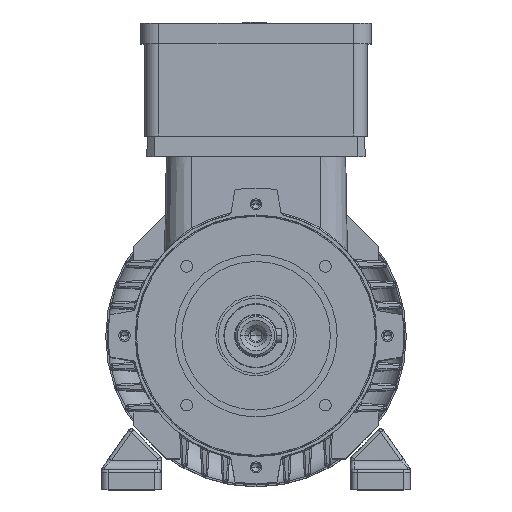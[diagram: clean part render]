
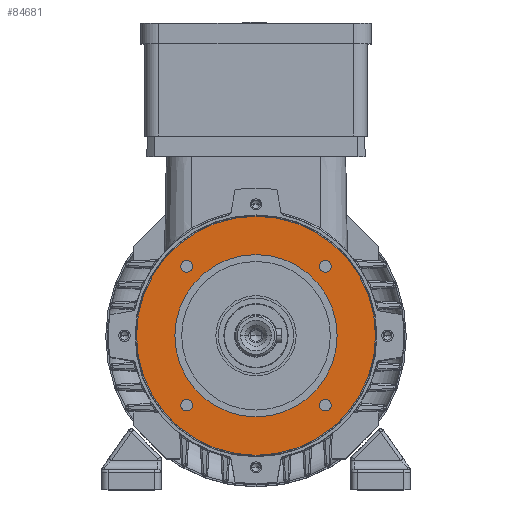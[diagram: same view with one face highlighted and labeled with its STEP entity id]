
A CAD part, top view. The second image highlights one B-rep face of the part: STEP entity #84681.
In plain terms, the highlighted planar face has unit normal (0, 0, 1).
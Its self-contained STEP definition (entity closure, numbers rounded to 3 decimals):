
#179 = CARTESIAN_POINT ( 'NONE',  ( 40.659, 40.659, 136.5 ) ) ;
#1349 = EDGE_CURVE ( 'NONE', #151225, #44682, #117210, .T. ) ;
#2076 = CARTESIAN_POINT ( 'NONE',  ( -40.659, -44.059, 136.5 ) ) ;
#2741 = CARTESIAN_POINT ( 'NONE',  ( -40.659, -37.259, 136.5 ) ) ;
#3137 = DIRECTION ( 'NONE',  ( 0., 0., -1. ) ) ;
#4863 = CARTESIAN_POINT ( 'NONE',  ( 0., 0., 136.5 ) ) ;
#8811 = EDGE_CURVE ( 'NONE', #55457, #29690, #137363, .T. ) ;
#9450 = ORIENTED_EDGE ( 'NONE', *, *, #47139, .F. ) ;
#11143 = ORIENTED_EDGE ( 'NONE', *, *, #64247, .F. ) ;
#12012 = DIRECTION ( 'NONE',  ( 1., 0., 0. ) ) ;
#19642 = CARTESIAN_POINT ( 'NONE',  ( 40.659, -37.259, 136.5 ) ) ;
#19977 = AXIS2_PLACEMENT_3D ( 'NONE', #92950, #140427, #21395 ) ;
#20085 = CARTESIAN_POINT ( 'NONE',  ( -40.659, 40.659, 136.5 ) ) ;
#20704 = CARTESIAN_POINT ( 'NONE',  ( -70., 0., 136.5 ) ) ;
#20721 = VERTEX_POINT ( 'NONE', #92875 ) ;
#21395 = DIRECTION ( 'NONE',  ( 0., 1., 0. ) ) ;
#23977 = CARTESIAN_POINT ( 'NONE',  ( 0., 70., 136.5 ) ) ;
#26121 = DIRECTION ( 'NONE',  ( 0., 1., 0. ) ) ;
#27962 = ORIENTED_EDGE ( 'NONE', *, *, #151804, .F. ) ;
#29690 = VERTEX_POINT ( 'NONE', #78491 ) ;
#31734 = AXIS2_PLACEMENT_3D ( 'NONE', #40163, #3137, #50434 ) ;
#32404 = AXIS2_PLACEMENT_3D ( 'NONE', #23977, #152768, #106320 ) ;
#33918 = EDGE_CURVE ( 'NONE', #142369, #128902, #96441, .T. ) ;
#35520 = DIRECTION ( 'NONE',  ( -1., 0., 0. ) ) ;
#36485 = CARTESIAN_POINT ( 'NONE',  ( -47.5, 0., 136.5 ) ) ;
#36967 = FACE_BOUND ( 'NONE', #77561, .T. ) ;
#39351 = EDGE_LOOP ( 'NONE', ( #79322, #52138 ) ) ;
#40163 = CARTESIAN_POINT ( 'NONE',  ( 0., 0., 136.5 ) ) ;
#43064 = ORIENTED_EDGE ( 'NONE', *, *, #138489, .F. ) ;
#43798 = DIRECTION ( 'NONE',  ( 0., 0., 1. ) ) ;
#44682 = VERTEX_POINT ( 'NONE', #56099 ) ;
#46935 = VERTEX_POINT ( 'NONE', #109754 ) ;
#47139 = EDGE_CURVE ( 'NONE', #44682, #151225, #149990, .T. ) ;
#47918 = CIRCLE ( 'NONE', #110751, 3.4 ) ;
#49312 = DIRECTION ( 'NONE',  ( 0., 0., 1. ) ) ;
#50434 = DIRECTION ( 'NONE',  ( -1., 0., 0. ) ) ;
#52138 = ORIENTED_EDGE ( 'NONE', *, *, #152041, .T. ) ;
#52148 = DIRECTION ( 'NONE',  ( 0., 0., -1. ) ) ;
#53653 = FACE_BOUND ( 'NONE', #140684, .T. ) ;
#54788 = CARTESIAN_POINT ( 'NONE',  ( 40.659, -44.059, 136.5 ) ) ;
#55457 = VERTEX_POINT ( 'NONE', #20704 ) ;
#55669 = DIRECTION ( 'NONE',  ( 0., 1., 0. ) ) ;
#55919 = CARTESIAN_POINT ( 'NONE',  ( 40.659, -40.659, 136.5 ) ) ;
#56099 = CARTESIAN_POINT ( 'NONE',  ( -40.659, 37.259, 136.5 ) ) ;
#58535 = AXIS2_PLACEMENT_3D ( 'NONE', #107935, #49312, #26121 ) ;
#59213 = DIRECTION ( 'NONE',  ( 0., 0., -1. ) ) ;
#62411 = EDGE_CURVE ( 'NONE', #29690, #55457, #89220, .T. ) ;
#62865 = CIRCLE ( 'NONE', #93419, 3.4 ) ;
#63037 = AXIS2_PLACEMENT_3D ( 'NONE', #126681, #68072, #68569 ) ;
#64247 = EDGE_CURVE ( 'NONE', #46935, #20721, #47918, .T. ) ;
#64646 = CIRCLE ( 'NONE', #112115, 47.5 ) ;
#65287 = ORIENTED_EDGE ( 'NONE', *, *, #130521, .F. ) ;
#67900 = DIRECTION ( 'NONE',  ( 0., 0., 1. ) ) ;
#68072 = DIRECTION ( 'NONE',  ( 0., 0., 1. ) ) ;
#68569 = DIRECTION ( 'NONE',  ( 1., 0., 0. ) ) ;
#70040 = AXIS2_PLACEMENT_3D ( 'NONE', #102623, #101601, #91753 ) ;
#73484 = VERTEX_POINT ( 'NONE', #19642 ) ;
#73499 = EDGE_LOOP ( 'NONE', ( #79110, #9450 ) ) ;
#75860 = DIRECTION ( 'NONE',  ( -1., 0., 0. ) ) ;
#75941 = CIRCLE ( 'NONE', #90685, 3.4 ) ;
#77548 = ORIENTED_EDGE ( 'NONE', *, *, #8811, .F. ) ;
#77561 = EDGE_LOOP ( 'NONE', ( #11143, #43064 ) ) ;
#78491 = CARTESIAN_POINT ( 'NONE',  ( 70., 0., 136.5 ) ) ;
#79110 = ORIENTED_EDGE ( 'NONE', *, *, #1349, .F. ) ;
#79322 = ORIENTED_EDGE ( 'NONE', *, *, #33918, .T. ) ;
#81762 = VERTEX_POINT ( 'NONE', #2076 ) ;
#82522 = DIRECTION ( 'NONE',  ( 0., 0., 1. ) ) ;
#84681 = ADVANCED_FACE ( 'NONE', ( #36967, #91373, #116249, #114066, #116306, #53653 ), #95560, .F. ) ;
#85435 = EDGE_LOOP ( 'NONE', ( #93376, #65287 ) ) ;
#87816 = ORIENTED_EDGE ( 'NONE', *, *, #112893, .F. ) ;
#89220 = CIRCLE ( 'NONE', #111640, 70. ) ;
#89295 = EDGE_CURVE ( 'NONE', #105330, #81762, #152813, .T. ) ;
#90344 = AXIS2_PLACEMENT_3D ( 'NONE', #20085, #43798, #55669 ) ;
#90685 = AXIS2_PLACEMENT_3D ( 'NONE', #55919, #138355, #91402 ) ;
#91373 = FACE_OUTER_BOUND ( 'NONE', #101134, .T. ) ;
#91402 = DIRECTION ( 'NONE',  ( 0., 1., 0. ) ) ;
#91753 = DIRECTION ( 'NONE',  ( -1., 0., 0. ) ) ;
#92875 = CARTESIAN_POINT ( 'NONE',  ( 37.259, 40.659, 136.5 ) ) ;
#92950 = CARTESIAN_POINT ( 'NONE',  ( -40.659, 40.659, 136.5 ) ) ;
#93376 = ORIENTED_EDGE ( 'NONE', *, *, #89295, .F. ) ;
#93419 = AXIS2_PLACEMENT_3D ( 'NONE', #146413, #108701, #121590 ) ;
#93553 = CIRCLE ( 'NONE', #58535, 3.4 ) ;
#94910 = CARTESIAN_POINT ( 'NONE',  ( 47.5, 0., 136.5 ) ) ;
#95560 = PLANE ( 'NONE',  #32404 ) ;
#96441 = CIRCLE ( 'NONE', #70040, 47.5 ) ;
#101134 = EDGE_LOOP ( 'NONE', ( #77548, #152749 ) ) ;
#101601 = DIRECTION ( 'NONE',  ( 0., 0., -1. ) ) ;
#102623 = CARTESIAN_POINT ( 'NONE',  ( 0., 0., 136.5 ) ) ;
#105330 = VERTEX_POINT ( 'NONE', #2741 ) ;
#106320 = DIRECTION ( 'NONE',  ( -1., 0., 0. ) ) ;
#107935 = CARTESIAN_POINT ( 'NONE',  ( -40.659, -40.659, 136.5 ) ) ;
#108701 = DIRECTION ( 'NONE',  ( 0., 0., 1. ) ) ;
#109174 = AXIS2_PLACEMENT_3D ( 'NONE', #138466, #67900, #115241 ) ;
#109754 = CARTESIAN_POINT ( 'NONE',  ( 44.059, 40.659, 136.5 ) ) ;
#110751 = AXIS2_PLACEMENT_3D ( 'NONE', #179, #82522, #12012 ) ;
#111640 = AXIS2_PLACEMENT_3D ( 'NONE', #4863, #52148, #75860 ) ;
#112115 = AXIS2_PLACEMENT_3D ( 'NONE', #128170, #59213, #35520 ) ;
#112893 = EDGE_CURVE ( 'NONE', #73484, #117392, #75941, .T. ) ;
#114066 = FACE_BOUND ( 'NONE', #73499, .T. ) ;
#115241 = DIRECTION ( 'NONE',  ( 0., 1., 0. ) ) ;
#116249 = FACE_BOUND ( 'NONE', #39351, .T. ) ;
#116306 = FACE_BOUND ( 'NONE', #85435, .T. ) ;
#117210 = CIRCLE ( 'NONE', #19977, 3.4 ) ;
#117392 = VERTEX_POINT ( 'NONE', #54788 ) ;
#121590 = DIRECTION ( 'NONE',  ( 0., 1., 0. ) ) ;
#126681 = CARTESIAN_POINT ( 'NONE',  ( 40.659, 40.659, 136.5 ) ) ;
#128170 = CARTESIAN_POINT ( 'NONE',  ( 0., 0., 136.5 ) ) ;
#128902 = VERTEX_POINT ( 'NONE', #94910 ) ;
#130133 = CIRCLE ( 'NONE', #63037, 3.4 ) ;
#130521 = EDGE_CURVE ( 'NONE', #81762, #105330, #93553, .T. ) ;
#137363 = CIRCLE ( 'NONE', #31734, 70. ) ;
#138355 = DIRECTION ( 'NONE',  ( 0., 0., 1. ) ) ;
#138466 = CARTESIAN_POINT ( 'NONE',  ( -40.659, -40.659, 136.5 ) ) ;
#138489 = EDGE_CURVE ( 'NONE', #20721, #46935, #130133, .T. ) ;
#138717 = CARTESIAN_POINT ( 'NONE',  ( -40.659, 44.059, 136.5 ) ) ;
#140427 = DIRECTION ( 'NONE',  ( 0., 0., 1. ) ) ;
#140684 = EDGE_LOOP ( 'NONE', ( #87816, #27962 ) ) ;
#142369 = VERTEX_POINT ( 'NONE', #36485 ) ;
#146413 = CARTESIAN_POINT ( 'NONE',  ( 40.659, -40.659, 136.5 ) ) ;
#149990 = CIRCLE ( 'NONE', #90344, 3.4 ) ;
#151225 = VERTEX_POINT ( 'NONE', #138717 ) ;
#151804 = EDGE_CURVE ( 'NONE', #117392, #73484, #62865, .T. ) ;
#152041 = EDGE_CURVE ( 'NONE', #128902, #142369, #64646, .T. ) ;
#152749 = ORIENTED_EDGE ( 'NONE', *, *, #62411, .F. ) ;
#152768 = DIRECTION ( 'NONE',  ( 0., 0., -1. ) ) ;
#152813 = CIRCLE ( 'NONE', #109174, 3.4 ) ;
